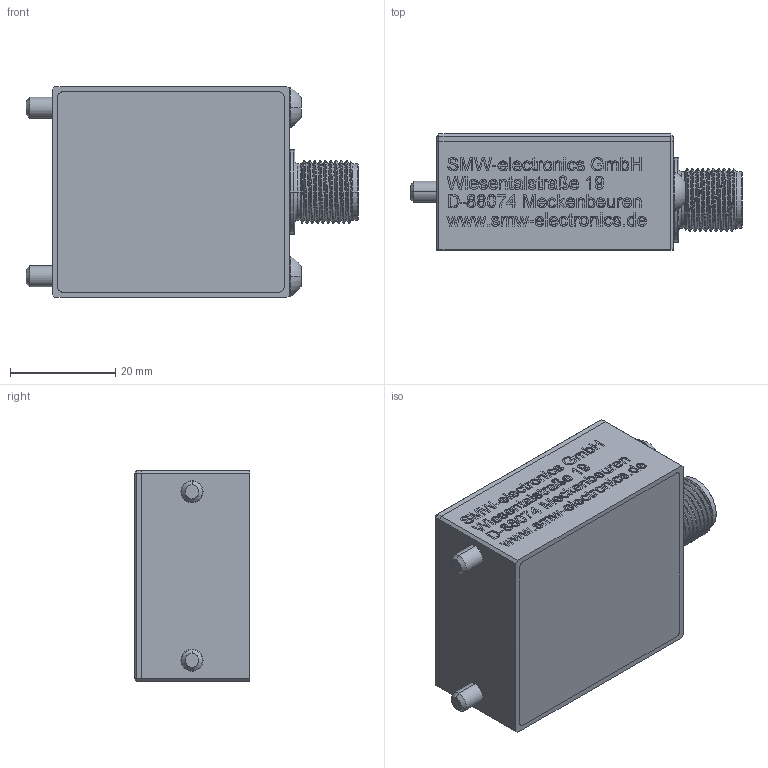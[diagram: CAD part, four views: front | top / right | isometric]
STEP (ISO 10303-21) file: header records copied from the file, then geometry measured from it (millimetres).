
FILE_DESCRIPTION (( 'STEP AP203' ), '1' );
FILE_NAME ('K0E012720_20241211_zg.STEP', '2024-12-11T15:03:25', ( '' ), ( '' ), 'SwSTEP 2.0', 'SolidWorks 2023', '' );
FILE_SCHEMA (( 'CONFIG_CONTROL_DESIGN' ));
Length unit declared in the file: millimetre
Products named in the file (9): K0E012720_20241211_zg; 0E012528_GEHÄUSEVERSCHRAUBUNG; 0E012713_LED LICHTLEITER; ISO7380-1-M4_FLACHKOPFSCHR. ISO7380-1_M4x50-A2-50; 0E012629_LP_C40_SPULENPLATINE_V1; 0E011627_SACC-CIP-M12MS-12P SMD SH; 0E012617_1_BESCHRIFTUNG C40_0E012720Base; 0E012618_DECKEL; 0E012617_GEHÄUSE BASE
Assembly tree (10 placements, depth 2):
  K0E012720_20241211_zg
    ISO7380-1-M4_FLACHKOPFSCHR. ISO7380-1_M4x50-A2-50  x2
    0E011627_SACC-CIP-M12MS-12P SMD SH
    0E012528_GEHÄUSEVERSCHRAUBUNG
    0E012713_LED LICHTLEITER  x2
    0E012617_GEHÄUSE BASE
    0E012618_DECKEL
    0E012629_LP_C40_SPULENPLATINE_V1
    0E012617_1_BESCHRIFTUNG C40_0E012720Base
Bounding box: 63 x 22.01 x 40.01 mm (x, y, z)
Volume: 14140.5 mm3; surface area: 21908.9 mm2
Topology: 192 solids, 192 shells, 3370 faces, 8533 edges, 5583 vertices
Faces by surface type: plane 1798, bspline 1123, cylinder 307, cone 81, torus 57, sphere 4
Entity records: 153574 total; most frequent: CARTESIAN_POINT 79785, ORIENTED_EDGE 16850, DIRECTION 11309, EDGE_CURVE 8425, VERTEX_POINT 5522, LINE 5289, VECTOR 5289, EDGE_LOOP 3503
